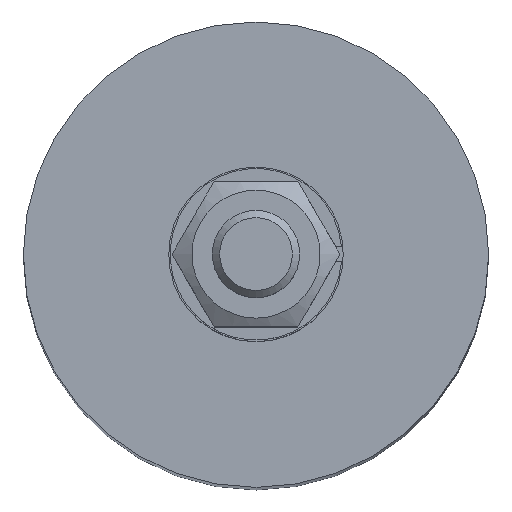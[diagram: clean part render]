
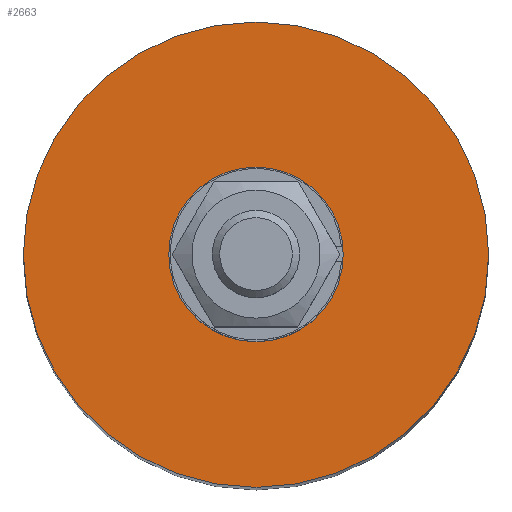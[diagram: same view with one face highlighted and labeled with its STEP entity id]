
A CAD part, top view. The second image highlights one B-rep face of the part: STEP entity #2663.
In plain terms, the highlighted planar face has unit normal (0, 0, 1).
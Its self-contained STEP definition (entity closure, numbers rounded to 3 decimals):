
#2597=CARTESIAN_POINT('',(0.,0.0,105.0));
#2598=DIRECTION('',(0.0,0.0,1.0));
#2599=DIRECTION('',(1.0,0.0,0.0));
#2600=AXIS2_PLACEMENT_3D('',#2597,#2598,#2599);
#2601=PLANE('',#2600);
#2602=CARTESIAN_POINT('',(16.0,0.,105.0));
#2603=VERTEX_POINT('',#2602);
#2604=CARTESIAN_POINT('',(0.0,0.0,105.0));
#2605=DIRECTION('',(0.0,0.0,1.0));
#2606=DIRECTION('',(-1.0,0.0,0.0));
#2607=AXIS2_PLACEMENT_3D('',#2604,#2605,#2606);
#2608=CIRCLE('',#2607,16.0);
#2609=EDGE_CURVE('',#2603,#2603,#2608,.T.);
#2610=ORIENTED_EDGE('',*,*,#2609,.T.);
#2611=EDGE_LOOP('',(#2610));
#2612=FACE_OUTER_BOUND('',#2611,.T.);
#2613=CARTESIAN_POINT('',(-5.774,0.,105.0));
#2614=VERTEX_POINT('',#2613);
#2615=CARTESIAN_POINT('',(-2.887,5.,105.0));
#2616=VERTEX_POINT('',#2615);
#2617=CARTESIAN_POINT('',(-5.774,0.,105.0));
#2618=DIRECTION('',(0.5,0.866,0.0));
#2619=VECTOR('',#2618,5.774);
#2620=LINE('',#2617,#2619);
#2621=EDGE_CURVE('',#2614,#2616,#2620,.T.);
#2622=ORIENTED_EDGE('',*,*,#2621,.T.);
#2623=CARTESIAN_POINT('',(2.887,5.,105.0));
#2624=VERTEX_POINT('',#2623);
#2625=CARTESIAN_POINT('',(-2.887,5.,105.0));
#2626=DIRECTION('',(1.0,0.0,0.0));
#2627=VECTOR('',#2626,5.774);
#2628=LINE('',#2625,#2627);
#2629=EDGE_CURVE('',#2616,#2624,#2628,.T.);
#2630=ORIENTED_EDGE('',*,*,#2629,.T.);
#2631=CARTESIAN_POINT('',(5.774,0.,105.0));
#2632=VERTEX_POINT('',#2631);
#2633=CARTESIAN_POINT('',(2.887,5.,105.0));
#2634=DIRECTION('',(0.5,-0.866,0.0));
#2635=VECTOR('',#2634,5.774);
#2636=LINE('',#2633,#2635);
#2637=EDGE_CURVE('',#2624,#2632,#2636,.T.);
#2638=ORIENTED_EDGE('',*,*,#2637,.T.);
#2639=CARTESIAN_POINT('',(2.887,-5.,105.0));
#2640=VERTEX_POINT('',#2639);
#2641=CARTESIAN_POINT('',(5.774,0.,105.0));
#2642=DIRECTION('',(-0.5,-0.866,0.0));
#2643=VECTOR('',#2642,5.774);
#2644=LINE('',#2641,#2643);
#2645=EDGE_CURVE('',#2632,#2640,#2644,.T.);
#2646=ORIENTED_EDGE('',*,*,#2645,.T.);
#2647=CARTESIAN_POINT('',(-2.887,-5.,105.0));
#2648=VERTEX_POINT('',#2647);
#2649=CARTESIAN_POINT('',(2.887,-5.,105.0));
#2650=DIRECTION('',(-1.0,0.0,0.0));
#2651=VECTOR('',#2650,5.774);
#2652=LINE('',#2649,#2651);
#2653=EDGE_CURVE('',#2640,#2648,#2652,.T.);
#2654=ORIENTED_EDGE('',*,*,#2653,.T.);
#2655=CARTESIAN_POINT('',(-2.887,-5.,105.0));
#2656=DIRECTION('',(-0.5,0.866,0.0));
#2657=VECTOR('',#2656,5.774);
#2658=LINE('',#2655,#2657);
#2659=EDGE_CURVE('',#2648,#2614,#2658,.T.);
#2660=ORIENTED_EDGE('',*,*,#2659,.T.);
#2661=EDGE_LOOP('',(#2622,#2630,#2638,#2646,#2654,#2660));
#2662=FACE_BOUND('',#2661,.T.);
#2663=ADVANCED_FACE('',(#2612,#2662),#2601,.T.);
